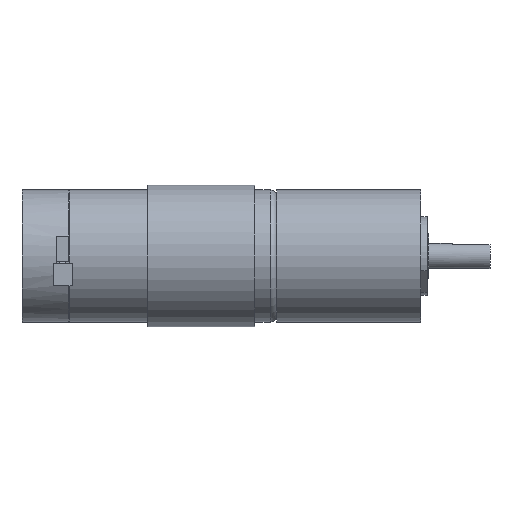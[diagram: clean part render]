
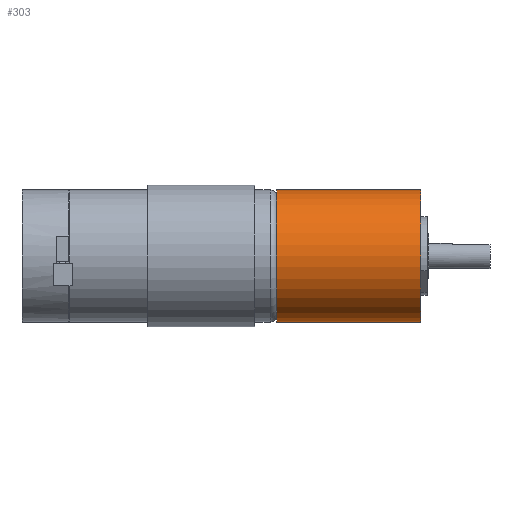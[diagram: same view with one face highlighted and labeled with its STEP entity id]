
A CAD part, left-side view. The second image highlights one B-rep face of the part: STEP entity #303.
In plain terms, the highlighted cylindrical face has radius 21 mm (diameter 42 mm), a partial arc.
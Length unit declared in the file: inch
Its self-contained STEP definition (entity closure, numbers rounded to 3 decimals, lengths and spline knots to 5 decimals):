
#303=ADVANCED_FACE('',(#629),#630,.T.);
#629=FACE_OUTER_BOUND('',#972,.T.);
#630=CYLINDRICAL_SURFACE('',#973,0.82677);
#972=EDGE_LOOP('',(#1685,#1686,#1687,#1688));
#973=AXIS2_PLACEMENT_3D('',#1689,#1690,#1691);
#1685=ORIENTED_EDGE('',*,*,#1992,.F.);
#1686=ORIENTED_EDGE('',*,*,#2147,.F.);
#1687=ORIENTED_EDGE('',*,*,#1994,.F.);
#1688=ORIENTED_EDGE('',*,*,#2036,.T.);
#1689=CARTESIAN_POINT('',(0.0,3.64812,0.));
#1690=DIRECTION('',(-0.0,-1.0,0.));
#1691=DIRECTION('',(0.0,0.,1.0));
#1992=EDGE_CURVE('',#2389,#2390,#2391,.T.);
#1994=EDGE_CURVE('',#2392,#2394,#2395,.T.);
#2036=EDGE_CURVE('',#2392,#2390,#2456,.T.);
#2147=EDGE_CURVE('',#2394,#2389,#2595,.T.);
#2389=VERTEX_POINT('',#2886);
#2390=VERTEX_POINT('',#2887);
#2391=LINE('',#2888,#2889);
#2392=VERTEX_POINT('',#2890);
#2394=VERTEX_POINT('',#2892);
#2395=LINE('',#2893,#2894);
#2456=CIRCLE('',#2973,0.82677);
#2595=CIRCLE('',#3153,0.82677);
#2886=CARTESIAN_POINT('',(0.0,1.80709,0.82677));
#2887=CARTESIAN_POINT('',(0.0,0.,0.82677));
#2888=CARTESIAN_POINT('',(0.,0.90354,0.82677));
#2889=VECTOR('',#3385,1.0);
#2890=CARTESIAN_POINT('',(0.,0.,-0.82677));
#2892=CARTESIAN_POINT('',(0.,1.80709,-0.82677));
#2893=CARTESIAN_POINT('',(0.,0.90354,-0.82677));
#2894=VECTOR('',#3389,1.0);
#2973=AXIS2_PLACEMENT_3D('',#3453,#3454,#3455);
#3153=AXIS2_PLACEMENT_3D('',#3593,#3594,#3595);
#3385=DIRECTION('',(-0.0,-1.0,0.));
#3389=DIRECTION('',(0.0,1.0,0.));
#3453=CARTESIAN_POINT('',(0.0,0.0,0.));
#3454=DIRECTION('',(0.0,1.0,0.));
#3455=DIRECTION('',(0.0,0.,1.0));
#3593=CARTESIAN_POINT('',(0.0,1.80709,0.));
#3594=DIRECTION('',(0.0,1.0,0.));
#3595=DIRECTION('',(0.0,0.,1.0));
